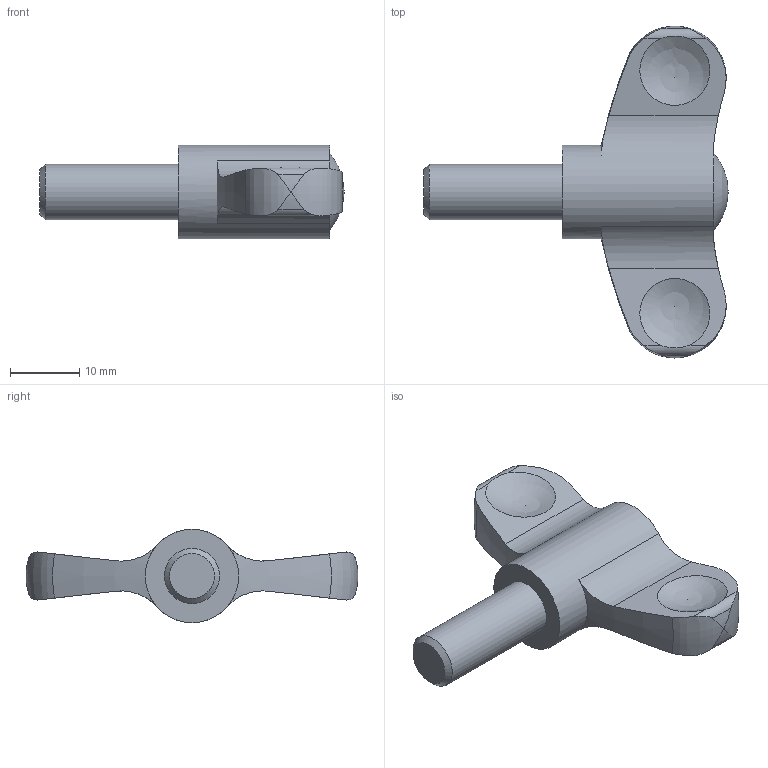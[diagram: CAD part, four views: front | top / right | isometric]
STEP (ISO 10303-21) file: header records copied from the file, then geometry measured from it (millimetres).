
FILE_DESCRIPTION( ( 'STEP AP203' ), '1' );
FILE_NAME( 'C:/Temp/Ganter_Step_05_03_2020/data/2_2/gn_633/Wing nut GN 633-48-M8-20-DGR.stp', '2020-03-05T12:20:45', ( 'License CC BY-ND 4.0' ), ( 'CADENAS' ), ' ', 'PARTsolutions', ' ' );
FILE_SCHEMA( ( 'CONFIG_CONTROL_DESIGN' ) );
Length unit declared in the file: millimetre
Products named in the file (1): _Wing nut GN 633-48-M8-20-DGR
Bounding box: 44 x 48 x 13.5 mm (x, y, z)
Volume: 6691.9 mm3; surface area: 3039.1 mm2
Topology: 1 solids, 1 shells, 33 faces, 102 edges, 68 vertices
Faces by surface type: cylinder 14, sphere 7, plane 7, bspline 2, torus 2, cone 1
Full cylindrical faces by diameter (mm): 8 x1, 13.5 x1
Entity records: 1450 total; most frequent: CARTESIAN_POINT 638, ORIENTED_EDGE 166, DIRECTION 138, EDGE_CURVE 83, VERTEX_POINT 63, AXIS2_PLACEMENT_3D 59, EDGE_LOOP 38, B_SPLINE_CURVE_WITH_KNOTS 36
